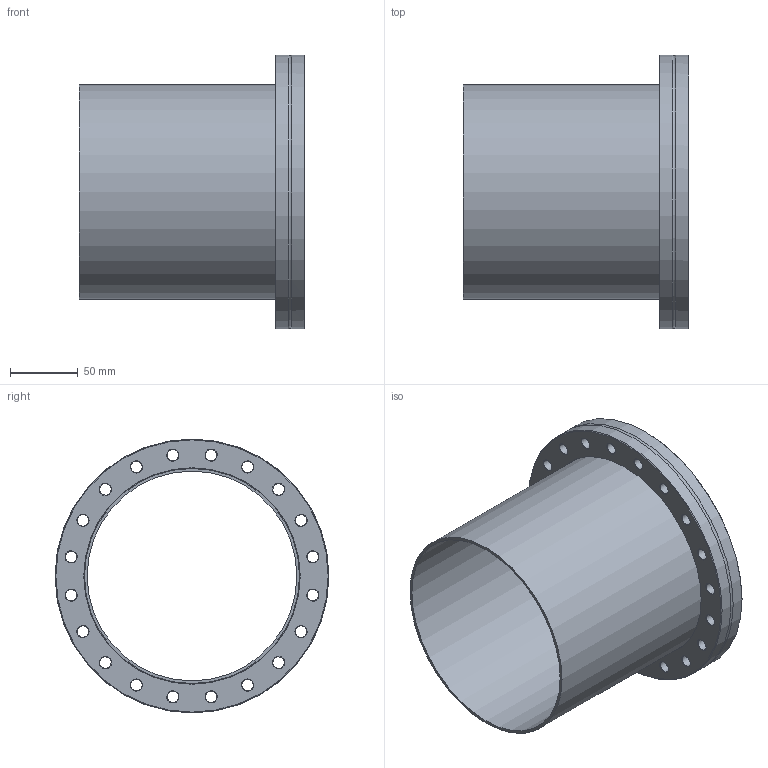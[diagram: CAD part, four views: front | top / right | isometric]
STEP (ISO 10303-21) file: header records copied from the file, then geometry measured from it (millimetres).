
FILE_DESCRIPTION((''),'2;1');
FILE_NAME('W:\13785_CF_Global_Fit_Umsetzung\089_Flange_with_Tube_Rotatable\M213-065.stp','2010-09-01T12:46:58',('KAA'),(''),'Autodesk Inventor 2011','Autodesk Inventor 2011','');
FILE_SCHEMA(('AUTOMOTIVE_DESIGN { 1 0 10303 214 1 1 1 1 }'));
Length unit declared in the file: millimetre
Products named in the file (1): 213-065
Bounding box: 167 x 202.5 x 202.5 mm (x, y, z)
Volume: 399736.3 mm3; surface area: 232153.9 mm2
Topology: 1 solids, 1 shells, 91 faces, 221 edges, 138 vertices
Faces by surface type: cone 47, cylinder 31, plane 9, torus 4
Full cylindrical faces by diameter (mm): 8.4 x20, 155 x2, 159 x1, 159.5 x2, 160 x1, 171.2 x1, 171.4 x1, 202.5 x2
Entity records: 2308 total; most frequent: DIRECTION 406, CARTESIAN_POINT 361, ORIENTED_EDGE 238, EDGE_LOOP 218, AXIS2_PLACEMENT_3D 202, FACE_BOUND 127, EDGE_CURVE 119, VERTEX_POINT 115
